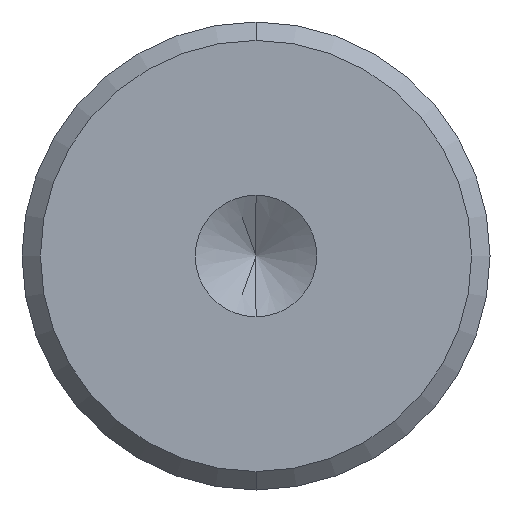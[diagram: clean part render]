
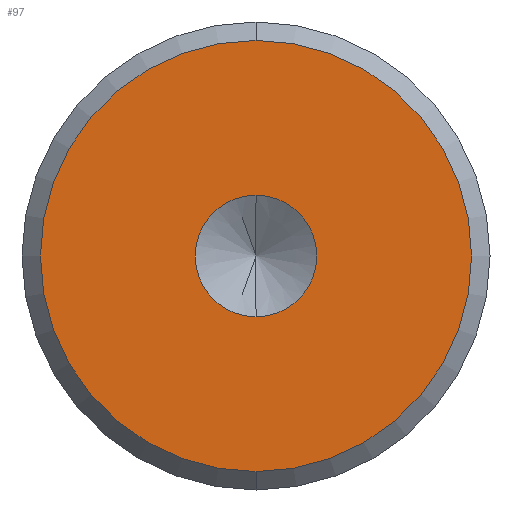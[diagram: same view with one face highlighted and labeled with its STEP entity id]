
A CAD part, front view. The second image highlights one B-rep face of the part: STEP entity #97.
In plain terms, the highlighted planar face has unit normal (0, -1, 0).
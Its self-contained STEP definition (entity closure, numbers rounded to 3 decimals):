
#12 = AXIS2_PLACEMENT_3D ( 'NONE', #405, #240, #119 ) ;
#14 = EDGE_CURVE ( 'NONE', #382, #378, #483, .T. ) ;
#38 = AXIS2_PLACEMENT_3D ( 'NONE', #485, #408, #118 ) ;
#60 = DIRECTION ( 'NONE',  ( 0., -1., 0. ) ) ;
#67 = ORIENTED_EDGE ( 'NONE', *, *, #380, .T. ) ;
#79 = CARTESIAN_POINT ( 'NONE',  ( 0., 0., 1.65 ) ) ;
#92 = CIRCLE ( 'NONE', #38, 1.65 ) ;
#97 = ADVANCED_FACE ( 'NONE', ( #311, #309 ), #232, .F. ) ;
#99 = VERTEX_POINT ( 'NONE', #115 ) ;
#106 = DIRECTION ( 'NONE',  ( 0., 1., 0. ) ) ;
#115 = CARTESIAN_POINT ( 'NONE',  ( 0., 0., 5.85 ) ) ;
#118 = DIRECTION ( 'NONE',  ( 0., 0., -1. ) ) ;
#119 = DIRECTION ( 'NONE',  ( 0., 0., 1. ) ) ;
#162 = CARTESIAN_POINT ( 'NONE',  ( 0., 0., -5.85 ) ) ;
#171 = CARTESIAN_POINT ( 'NONE',  ( 0., 0., -1.65 ) ) ;
#182 = AXIS2_PLACEMENT_3D ( 'NONE', #322, #205, #448 ) ;
#186 = EDGE_CURVE ( 'NONE', #99, #484, #456, .T. ) ;
#205 = DIRECTION ( 'NONE',  ( 0., -1., 0. ) ) ;
#221 = ORIENTED_EDGE ( 'NONE', *, *, #370, .F. ) ;
#225 = AXIS2_PLACEMENT_3D ( 'NONE', #236, #106, #385 ) ;
#232 = PLANE ( 'NONE',  #225 ) ;
#236 = CARTESIAN_POINT ( 'NONE',  ( 0., 0., 0. ) ) ;
#240 = DIRECTION ( 'NONE',  ( 0., -1., 0. ) ) ;
#269 = AXIS2_PLACEMENT_3D ( 'NONE', #468, #60, #387 ) ;
#309 = FACE_OUTER_BOUND ( 'NONE', #471, .T. ) ;
#311 = FACE_BOUND ( 'NONE', #450, .T. ) ;
#322 = CARTESIAN_POINT ( 'NONE',  ( 0., 0., 0. ) ) ;
#370 = EDGE_CURVE ( 'NONE', #378, #382, #92, .T. ) ;
#372 = CIRCLE ( 'NONE', #182, 5.85 ) ;
#378 = VERTEX_POINT ( 'NONE', #171 ) ;
#380 = EDGE_CURVE ( 'NONE', #484, #99, #372, .T. ) ;
#382 = VERTEX_POINT ( 'NONE', #79 ) ;
#385 = DIRECTION ( 'NONE',  ( 0., 0., 1. ) ) ;
#387 = DIRECTION ( 'NONE',  ( 0., 0., -1. ) ) ;
#405 = CARTESIAN_POINT ( 'NONE',  ( 0., 0., 0. ) ) ;
#408 = DIRECTION ( 'NONE',  ( 0., -1., 0. ) ) ;
#448 = DIRECTION ( 'NONE',  ( 0., 0., 1. ) ) ;
#450 = EDGE_LOOP ( 'NONE', ( #221, #476 ) ) ;
#456 = CIRCLE ( 'NONE', #12, 5.85 ) ;
#468 = CARTESIAN_POINT ( 'NONE',  ( 0., 0., 0. ) ) ;
#471 = EDGE_LOOP ( 'NONE', ( #496, #67 ) ) ;
#476 = ORIENTED_EDGE ( 'NONE', *, *, #14, .F. ) ;
#483 = CIRCLE ( 'NONE', #269, 1.65 ) ;
#484 = VERTEX_POINT ( 'NONE', #162 ) ;
#485 = CARTESIAN_POINT ( 'NONE',  ( 0., 0., 0. ) ) ;
#496 = ORIENTED_EDGE ( 'NONE', *, *, #186, .T. ) ;
